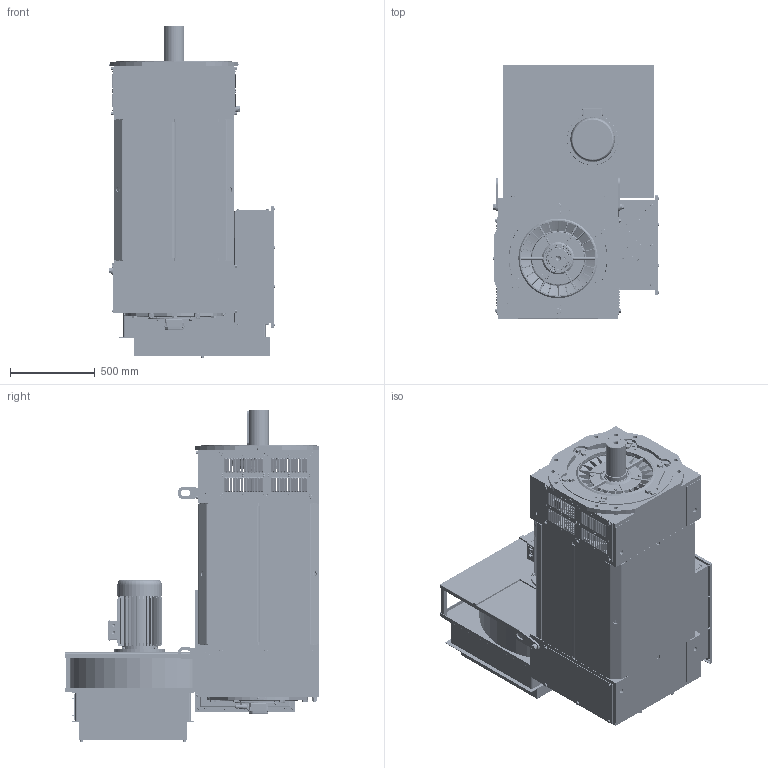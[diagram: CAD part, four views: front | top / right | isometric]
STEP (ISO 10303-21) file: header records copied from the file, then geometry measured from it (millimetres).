
FILE_DESCRIPTION (( 'STEP AP214' ), '1' );
FILE_NAME ('355_L_HQLa.STEP', '2023-01-21T09:12:59', ( '' ), ( '' ), 'SwSTEP 2.0', 'SolidWorks 2022', '' );
FILE_SCHEMA (( 'AUTOMOTIVE_DESIGN' ));
Length unit declared in the file: millimetre
Products named in the file (52): TAPPO_66; hex screw gradec_din_DIN EN 24018 - M10 x 100-WN; pan head cross recess screw_iso_ISO 7045 - M5 x 10 - Z - 10N; hex screw gradeab_din_DIN EN 24017 - M20 x 40-N; parallel_din_Parallel key A32 x 18 x 200 DIN 6885; MOTORE_3F_7.5Kw_400v_50Hz; 3DU355PCA; 3MU355PPA; circlip for shafts normal_din_Circlip DIN 471 - 130 x 4; 3CU355PEA; 3WU355PHA_L; curved spring lock washer_din_Spring washer DIN 128 - A22; 3WU355PAA_L; 3DU355PGA_POST; slotted set screw flat point_iso_ISO 4766 - M10 x 50-N; plain washer normal grade c_iso_Washer ISO 7091 - 10; hex screw gradec_iso_ISO 4018 - M8 x 20-WN; hex nut style 2 gradeab_iso_ISO - 4033 - M10 - W - N; hex bolt gradeb_iso_ISO 4015 - M20 x 65 x 46-N; 3ZJ280PAA; 3YU355PLA; 3YU355PCA; 3PZ014PAA; hex screw gradeab fine_iso_ISO 8676 - M8x1.0 x 16-N; 3connettore10pin; 3PU355PBA; 6226_SKF; plain washer normal grade c_iso_Washer ISO 7091 - 8; hex nut style 1 gradeab_din_Hexagon Nut ISO 4032 - M20 - W - N; 3YU355PAA; 355_L_HQLa; FILTRO_700x630x100; NU_226EC_SKF; hex screw gradec_iso_ISO 4018 - M10 x 20-NN; 3CONN10PIN; curved spring lock washer_din_Spring washer DIN 128 - A20; 3DU355PGA_ANT; plain washer normal grade c_iso_Washer ISO 7091 - 5; 3YU335PMA_M; hex nut style 2 gradeab_iso_ISO - 4033 - M5 - W - N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
Assembly tree (211 placements, depth 2):
  355_L_HQLa
    3WU355PHA_L
    3YU355PAA  x2
    3CU355PEA
    3WU355PAA_L  x4
    3AU355CAA_L
    3DU355PCA
    3DU355PGA_ANT
    NU_226EC_SKF  x2
    6226_SKF
    parallel_din_Parallel key A32 x 18 x 200 DIN 6885
    3ZJ280PAA  x2
    circlip for shafts normal_din_Circlip DIN 471 - 130 x 4  x2
    3CU355PFA
    3DU355PGA_POST
    3PZ014PAA
    3YU335PMA_M
    3connettore10pin
    3CONN10PIN
    slotted set screw flat point_iso_ISO 4766 - M10 x 50-N  x4
    hex nut style 2 gradeab_iso_ISO - 4033 - M10 - W - N  x12
    pan head cross recess screw_iso_ISO 7045 - M5 x 10 - Z - 10N  x4
    socket head cap screw_iso_ISO 4762 M3 x 6 - 6N  x3
    3MU355PPA
    FILTRO_700x630x100
    CASTELLO_FILTRO_885x720x283
    MOTORE_3F_7.5Kw_400v_50Hz
    3PU355PAA
    3PU355PBA
    plain washer normal grade c_iso_Washer ISO 7091 - 5  x2
    hex nut style 2 gradeab_iso_ISO - 4033 - M5 - W - N  x2
    3YU355PCA  x2
    3YU355PHA  x2
    3YU355PLA
    3ANELLO_TENUTA_130_160_12
    TAPPO_66  x6
    plain washer normal grade c_iso_Washer ISO 7091 - 8  x24
    hex screw gradec_iso_ISO 4018 - M8 x 20-WN  x24
    plain washer normal grade c_iso_Washer ISO 7091 - 20  x21
    curved spring lock washer_din_Spring washer DIN 128 - A22  x3
    hex screw gradeab_din_DIN EN 24017 - M20 x 40-N  x3
    plain washer normal grade c_iso_Washer ISO 7091 - 10  x14
    hex screw gradec_iso_ISO 4018 - M10 x 20-NN  x14
    hex bolt gradeb_iso_ISO 4015 - M20 x 65 x 46-N  x18
    TIRANTE_M20_L1015  x2
    curved spring lock washer_din_Spring washer DIN 128 - A20  x2
    hex nut style 1 gradeab_din_Hexagon Nut ISO 4032 - M20 - W - N  x2
    curved spring lock washer_din_Spring washer DIN 128 - A10  x4
    hex screw gradec_din_DIN EN 24018 - M10 x 100-WN  x4
    INGRASSATORE_M8  x2
    plain washer chamfered grade a_iso_Washer ISO 7090 - 8  x2
    hex screw gradeab fine_iso_ISO 8676 - M8x1.0 x 16-N  x2
Bounding box: 981.98 x 1495 x 1953 mm (x, y, z)
Volume: 277601638 mm3; surface area: 42832200.8 mm2
Topology: 311 solids, 362 shells, 10918 faces, 26979 edges, 17125 vertices
Faces by surface type: plane 5583, cylinder 3423, cone 1033, bspline 499, torus 285, sphere 95
Full cylindrical faces by diameter (mm): 1.5 x10, 3 x3, 3.2 x4, 3.3 x1, 4 x4, 4.2 x2, 5 x13, 5.5 x11, 6 x1, 6.5 x12, 6.8 x24, 7 x4, 8 x40, 8.4 x2, 8.5 x52, 8.8 x2, 9 x24, 9.5 x4, 10 x120, 10.5 x2, 11 x57, 12 x50, 12.5 x16, 13 x26, 14 x9, 16 x45, 16.3 x8, 17 x6, 17.5 x38, 18.313 x4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
Entity records: 230678 total; most frequent: CARTESIAN_POINT 63431, ORIENTED_EDGE 32620, DIRECTION 32353, EDGE_CURVE 16332, AXIS2_PLACEMENT_3D 11620, VERTEX_POINT 10997, VECTOR 9113, LINE 9113
